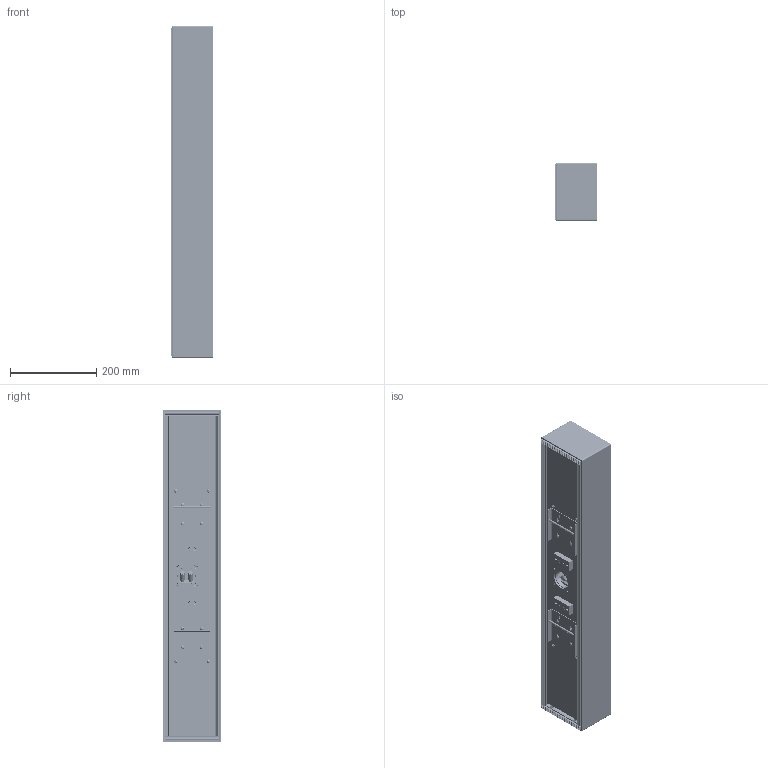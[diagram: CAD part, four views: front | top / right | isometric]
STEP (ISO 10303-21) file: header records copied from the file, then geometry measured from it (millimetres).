
FILE_DESCRIPTION (( 'STEP AP203' ), '1' );
FILE_NAME ('943000 RevA P3m-V Assembly.STEP', '2026-08-18T14:52:48', ( '' ), ( '' ), 'SwSTEP 2.0', 'SolidWorks 2026', '' );
FILE_SCHEMA (( 'CONFIG_CONTROL_DESIGN' ));
Length unit declared in the file: inch
Products named in the file (60): 230042-1-solid1_1; 149510-01 RevA1 P3m Woofer Phase Plug; Color Dot; 260074-1-solid1_1; 100064-1-solid1_1; 360078-1-solid1_1; 120670 Screw 8-32x5_8 FH Phil Blk Zinc_96640A127; 121540 Washer #8 Oversized Black Oxide SS_96659A129; 149510-03 SI ITB-832_SI ITB-832; 220068 60 degree-1-solid1_1; 3in SA Fiber Board Assy; 403170 RevA P3m Back Mounting Gasket_End Caps; 403170 RevA P3m Back Mounting Gasket_30.25in; 310005-2-solid1_1; 149500 RevA P3m Perf Grill_30.25in; 502350 Mid Bass Driver 4-1_2 Inch 4 Ohm; 149540 RevA P3m Internal Divider Block; 149520-05 RevA P3m PMD Gasket_Compressed; 149530 RevA Bass Driver 4-1_2in Clamp Ring; Sprial PMD housing Rev H; 300430 RevA P3m Driver Module Assembly; 943000 RevA P3m-V Assembly; 190300 RevB Terminal Cup 3in Gasket_Compressed; 110047-2-solid1_1; 791300 RevA Magnet NdFeB N52 Disc Dia .250 x .125; 120950 Nut KEP 8-32 Zinc_90675A009; Terminal Post; 151510 RevA P3m-V Filler Plate_30.25in+; 149520 RevA3 P3m Front Driver Baffle Assembly_Compressed Gasket; 149520-02 RevA3 P3m Grill Magnet; 151500 RevA P3m-V Back Box_30.25in - 49.999in; 149510 RevA1 P3m Woofer Phase Plug Assembly_Compressed Gasket; Terminal Cup; 149520-04 RevA P3m Phase Plug Gasket_Compressed; Color Dot_Black. >; 260074-1-solid2_1; 149560 RevA P3m VESA Mounting Block; 120630 Screw 8-32x1-1_2 FH Phillips Blk_96640A168; 149510-04 SI IUTFB-632_SI IUTFB-632; 161000 Terminal Cup 3 Inch OD Push Terminals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
Assembly tree (191 placements, depth 5):
  943000 RevA P3m-V Assembly
    151500 RevA P3m-V Back Box_30.25in - 49.999in
    151510 RevA P3m-V Filler Plate_30.25in+  x2
    149500 RevA P3m Perf Grill_30.25in
    403170 RevA P3m Back Mounting Gasket_30.25in  x2
    300430 RevA P3m Driver Module Assembly
      149520 RevA3 P3m Front Driver Baffle Assembly_Compressed Gasket
        149520-01 RevA2 P3m Front Driver Baffle
        149520-02 RevA3 P3m Grill Magnet  x14
        149520-03 RevA P3m Front Driver Baffle Gasket_Compressed
        149520-04 RevA P3m Phase Plug Gasket_Compressed  x2
        149520-05 RevA P3m PMD Gasket_Compressed
      149510 RevA1 P3m Woofer Phase Plug Assembly_Compressed Gasket  x2
        149510-01 RevA1 P3m Woofer Phase Plug
        149510-04 SI IUTFB-632_SI IUTFB-632
        149510-03 SI ITB-832_SI ITB-832
        149510-02 RevA P3m Woofer Gasket_Compressed
      502350 Mid Bass Driver 4-1_2 Inch 4 Ohm  x2
        220068 60 degree-1-solid1_1
        200003-4-1-solid1_1
        260074-1-solid2_1
        200003-2-1-solid1_1
        200003-1-1-solid1_1
        360078-1-solid1_1
        370038-1-solid1_1
        260074-1-solid1_1
        110047-2-solid1_1
        310005-2-solid1_1
        200003-3-2-solid1_1
        230042-1-solid1_1
        100064-1-solid1_1
      149530 RevA Bass Driver 4-1_2in Clamp Ring  x4
      220190 RevA P3m Crossover  x2
      PMD tweeter housing ASSY Rev H
        PMD tweeter Front Plate flat sealing Rev H
        Sprial PMD housing Rev H
        3in SA Fiber Board Assy
          Connector DC Jack Fiber Board
      121310 Screw 6-32x3_8 FH Philips Blk SS_96640A115  x15
      120630 Screw 8-32x1-1_2 FH Phillips Blk_96640A168  x8
      120950 Nut KEP 8-32 Zinc_90675A009  x8
      121540 Washer #8 Oversized Black Oxide SS_96659A129  x8
      190250 RevA P3m Resonator Damping Foam_Compressed  x2
    120560 Screw 8-32x1_2 FH Phillips Blk Oxide SS_96640A126  x20
    791300 RevA Magnet NdFeB N52 Disc Dia .250 x .125  x18
    149550 RevA P3m End Cap  x2
    403170 RevA P3m Back Mounting Gasket_End Caps  x2
    121320 Screw 8-32x1_2 Pan Phillips Blk Oxide SS_91249A194  x12
    406500 RevE Bracket Onwall Speaker Portion  x2
    120110 Screw 8-32x3_8 Pan Phil MS Stl Blk Zinc_91249A192  x8
    161000 Terminal Cup 3 Inch OD Push Terminals
      Terminal Cup
      Terminal Post  x2
      Color Dot
      Color Dot_Black. >
    190300 RevB Terminal Cup 3in Gasket_Compressed
    120260 Nut Nylock 8-32 Stainless Steel_91831A009  x4
    120670 Screw 8-32x5_8 FH Phil Blk Zinc_96640A127  x8
    149540 RevA P3m Internal Divider Block  x2
    149560 RevA P3m VESA Mounting Block  x2
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Bounding box: 98.57 x 133.35 x 768.35 mm (x, y, z)
Volume: 2696564.5 mm3; surface area: 1733732.4 mm2
Topology: 218 solids, 218 shells, 9558 faces, 24613 edges, 15609 vertices
Faces by surface type: plane 2966, cylinder 2272, cone 2079, bspline 1193, torus 979, sphere 69
Entity records: 139121 total; most frequent: CARTESIAN_POINT 47596, ORIENTED_EDGE 17244, DIRECTION 17099, EDGE_CURVE 8622, AXIS2_PLACEMENT_3D 7110, VERTEX_POINT 5454, EDGE_LOOP 3946, CIRCLE 3904
